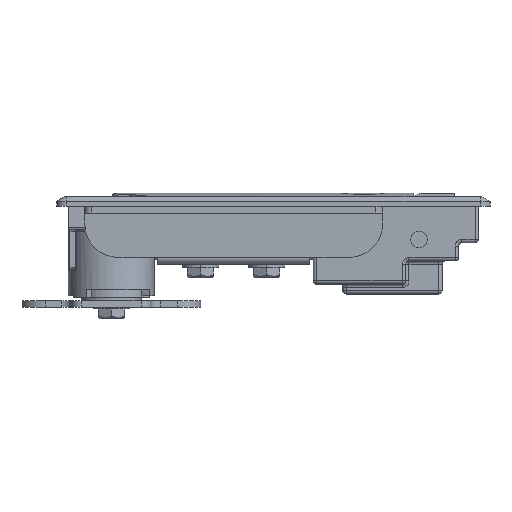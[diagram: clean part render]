
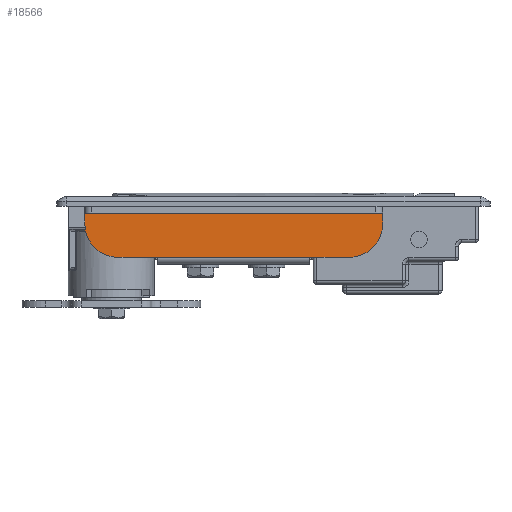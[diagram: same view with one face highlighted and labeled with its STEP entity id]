
A CAD part, left-side view. The second image highlights one B-rep face of the part: STEP entity #18566.
In plain terms, the highlighted planar face has unit normal (-1, 0, 0).
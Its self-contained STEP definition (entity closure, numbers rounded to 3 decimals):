
#40 = DIRECTION ( 'NONE',  ( 0., 1., 0. ) ) ;
#271 = VERTEX_POINT ( 'NONE', #10186 ) ;
#314 = DIRECTION ( 'NONE',  ( 1., 0., 0. ) ) ;
#1155 = ORIENTED_EDGE ( 'NONE', *, *, #6533, .F. ) ;
#1708 = CIRCLE ( 'NONE', #13236, 10. ) ;
#1967 = DIRECTION ( 'NONE',  ( 0., 0., 1. ) ) ;
#2773 = VECTOR ( 'NONE', #4789, 1000. ) ;
#3065 = LINE ( 'NONE', #6400, #14421 ) ;
#3094 = EDGE_CURVE ( 'NONE', #13165, #17011, #3272, .T. ) ;
#3272 = LINE ( 'NONE', #19960, #2773 ) ;
#3572 = ORIENTED_EDGE ( 'NONE', *, *, #19350, .T. ) ;
#3590 = CARTESIAN_POINT ( 'NONE',  ( -15.5, -2.1, 35. ) ) ;
#3847 = FACE_OUTER_BOUND ( 'NONE', #14695, .T. ) ;
#4789 = DIRECTION ( 'NONE',  ( 0., 0., -1. ) ) ;
#5502 = VERTEX_POINT ( 'NONE', #11905 ) ;
#5576 = LINE ( 'NONE', #16483, #13304 ) ;
#5659 = DIRECTION ( 'NONE',  ( 0., 0., -1. ) ) ;
#6112 = EDGE_CURVE ( 'NONE', #271, #10339, #9000, .T. ) ;
#6400 = CARTESIAN_POINT ( 'NONE',  ( -15.5, -2.1, 45. ) ) ;
#6533 = EDGE_CURVE ( 'NONE', #13436, #8412, #19147, .T. ) ;
#6731 = VERTEX_POINT ( 'NONE', #14350 ) ;
#7436 = EDGE_CURVE ( 'NONE', #5502, #13165, #18882, .T. ) ;
#7661 = DIRECTION ( 'NONE',  ( 0., 0., -1. ) ) ;
#8412 = VERTEX_POINT ( 'NONE', #16452 ) ;
#9000 = LINE ( 'NONE', #18980, #17237 ) ;
#9084 = CARTESIAN_POINT ( 'NONE',  ( -15.5, -12.1, -35. ) ) ;
#9162 = ORIENTED_EDGE ( 'NONE', *, *, #18432, .T. ) ;
#9255 = DIRECTION ( 'NONE',  ( -1., 0., 0. ) ) ;
#9487 = CARTESIAN_POINT ( 'NONE',  ( -15.5, -2.1, 45. ) ) ;
#9753 = AXIS2_PLACEMENT_3D ( 'NONE', #9487, #314, #11126 ) ;
#10137 = ORIENTED_EDGE ( 'NONE', *, *, #6112, .F. ) ;
#10186 = CARTESIAN_POINT ( 'NONE',  ( -15.5, -2.1, -35. ) ) ;
#10339 = VERTEX_POINT ( 'NONE', #17100 ) ;
#10652 = DIRECTION ( 'NONE',  ( 0., 1., 0. ) ) ;
#11126 = DIRECTION ( 'NONE',  ( 0., 1., 0. ) ) ;
#11905 = CARTESIAN_POINT ( 'NONE',  ( -15.5, -12.1, 45. ) ) ;
#12144 = EDGE_CURVE ( 'NONE', #5502, #13436, #3065, .T. ) ;
#12238 = CARTESIAN_POINT ( 'NONE',  ( -15.5, -15.4, 45. ) ) ;
#12873 = CARTESIAN_POINT ( 'NONE',  ( -15.5, -2.1, -45. ) ) ;
#13165 = VERTEX_POINT ( 'NONE', #3590 ) ;
#13236 = AXIS2_PLACEMENT_3D ( 'NONE', #9084, #19871, #10652 ) ;
#13304 = VECTOR ( 'NONE', #5659, 1000. ) ;
#13436 = VERTEX_POINT ( 'NONE', #12238 ) ;
#14350 = CARTESIAN_POINT ( 'NONE',  ( -15.5, -12.1, -45. ) ) ;
#14421 = VECTOR ( 'NONE', #18786, 1000. ) ;
#14430 = DIRECTION ( 'NONE',  ( 0., -1., 0. ) ) ;
#14695 = EDGE_LOOP ( 'NONE', ( #10137, #9162, #3572, #1155, #16809, #18080, #15782, #16851 ) ) ;
#15389 = AXIS2_PLACEMENT_3D ( 'NONE', #18529, #9255, #40 ) ;
#15393 = CARTESIAN_POINT ( 'NONE',  ( -15.5, -15.4, 45. ) ) ;
#15699 = VECTOR ( 'NONE', #14430, 1000. ) ;
#15782 = ORIENTED_EDGE ( 'NONE', *, *, #3094, .T. ) ;
#16452 = CARTESIAN_POINT ( 'NONE',  ( -15.5, -15.4, -45. ) ) ;
#16459 = CARTESIAN_POINT ( 'NONE',  ( -15.5, -2.1, 23. ) ) ;
#16483 = CARTESIAN_POINT ( 'NONE',  ( -15.5, -2.1, 45. ) ) ;
#16633 = EDGE_CURVE ( 'NONE', #17011, #10339, #5576, .T. ) ;
#16809 = ORIENTED_EDGE ( 'NONE', *, *, #12144, .F. ) ;
#16851 = ORIENTED_EDGE ( 'NONE', *, *, #16633, .T. ) ;
#17011 = VERTEX_POINT ( 'NONE', #16459 ) ;
#17100 = CARTESIAN_POINT ( 'NONE',  ( -15.5, -2.1, -23. ) ) ;
#17237 = VECTOR ( 'NONE', #1967, 1000. ) ;
#18080 = ORIENTED_EDGE ( 'NONE', *, *, #7436, .T. ) ;
#18432 = EDGE_CURVE ( 'NONE', #271, #6731, #1708, .T. ) ;
#18529 = CARTESIAN_POINT ( 'NONE',  ( -15.5, -12.1, 35. ) ) ;
#18566 = ADVANCED_FACE ( 'NONE', ( #3847 ), #18817, .F. ) ;
#18673 = VECTOR ( 'NONE', #7661, 1000. ) ;
#18786 = DIRECTION ( 'NONE',  ( 0., -1., 0. ) ) ;
#18817 = PLANE ( 'NONE',  #9753 ) ;
#18836 = LINE ( 'NONE', #12873, #15699 ) ;
#18882 = CIRCLE ( 'NONE', #15389, 10. ) ;
#18980 = CARTESIAN_POINT ( 'NONE',  ( -15.5, -2.1, 45. ) ) ;
#19147 = LINE ( 'NONE', #15393, #18673 ) ;
#19350 = EDGE_CURVE ( 'NONE', #6731, #8412, #18836, .T. ) ;
#19871 = DIRECTION ( 'NONE',  ( -1., 0., 0. ) ) ;
#19960 = CARTESIAN_POINT ( 'NONE',  ( -15.5, -2.1, 45. ) ) ;
